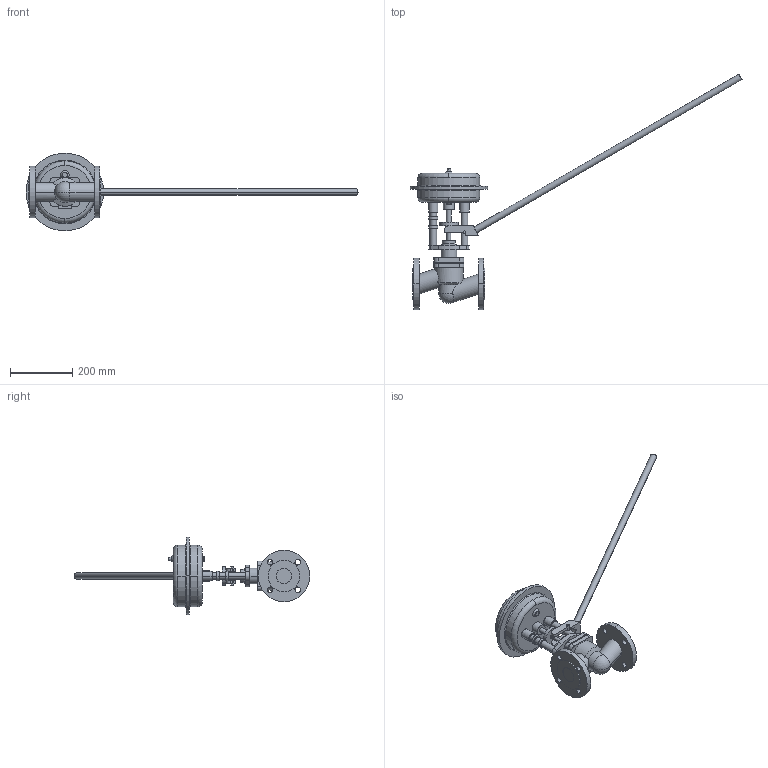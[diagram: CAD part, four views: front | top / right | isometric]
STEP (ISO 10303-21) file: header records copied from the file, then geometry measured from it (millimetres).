
FILE_DESCRIPTION(('OneSpaceDesigner STEP Export'),'2;1');
FILE_NAME('c000003571.stp','2009-11-30T 9:52:12',(''),(''),'OneSpace Designer STEP processor for AP214 (Solid Model)','OneSpace Modeling 15.50B 03-Nov-2007 (C) CoCreate Software GmbH','');
FILE_SCHEMA(('AUTOMOTIVE_DESIGN { 1 0 10303 214 1 1 1 1 }'));
Length unit declared in the file: millimetre
Products named in the file (1): 1
Bounding box: 1063.38 x 754.17 x 249 mm (x, y, z)
Volume: 5612454.1 mm3; surface area: 464611.7 mm2
Topology: 1 solids, 1 shells, 225 faces, 554 edges, 363 vertices
Faces by surface type: cylinder 110, plane 99, torus 8, cone 6, sphere 2
Entity records: 8097 total; most frequent: CARTESIAN_POINT 1392, ORIENTED_EDGE 1104, DIRECTION 903, EDGE_CURVE 552, VERTEX_POINT 363, AXIS2_PLACEMENT_3D 325, EDGE_LOOP 281, VECTOR 253
